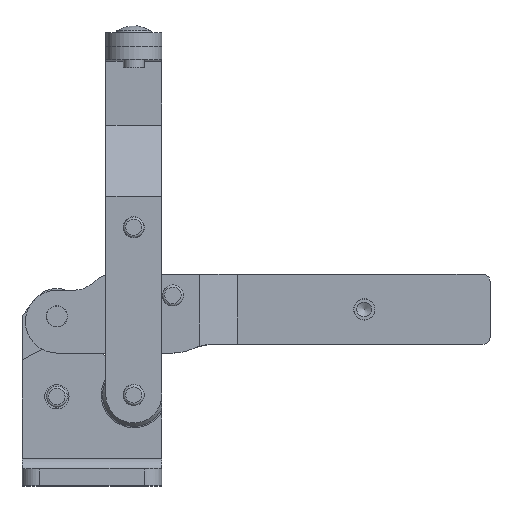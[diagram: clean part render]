
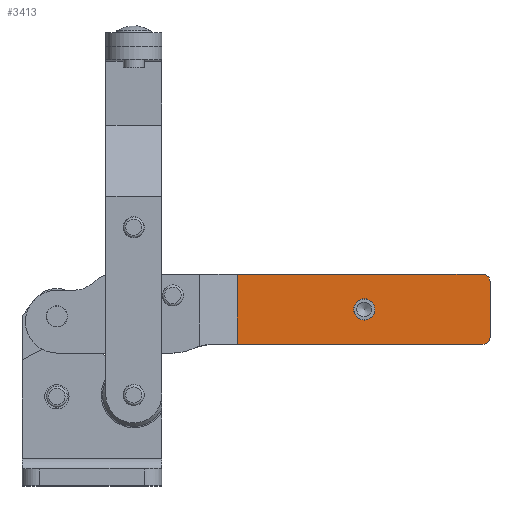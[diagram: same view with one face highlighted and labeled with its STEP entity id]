
A CAD part, top view. The second image highlights one B-rep face of the part: STEP entity #3413.
In plain terms, the highlighted planar face has unit normal (0, 0, 1) as drawn and (0, 0, -1) by its records, which use the part's own axes.
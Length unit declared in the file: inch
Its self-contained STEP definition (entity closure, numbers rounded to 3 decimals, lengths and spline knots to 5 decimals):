
#183=PLANE('',#3762);
#391=LINE('',#6078,#593);
#400=LINE('',#6096,#602);
#401=LINE('',#6101,#603);
#402=LINE('',#6102,#604);
#593=VECTOR('',#4534,0.50012);
#602=VECTOR('',#4549,2.19665);
#603=VECTOR('',#4556,2.19765);
#604=VECTOR('',#4557,0.62512);
#761=FACE_BOUND('',#1191,.T.);
#923=FACE_OUTER_BOUND('',#1190,.T.);
#1190=EDGE_LOOP('',(#2789,#2790,#2791,#2792,#2793,#2794));
#1191=EDGE_LOOP('',(#2795));
#1450=CIRCLE('',#3751,0.095);
#1453=CIRCLE('',#3755,0.062);
#1455=CIRCLE('',#3761,0.063);
#1714=VERTEX_POINT('',#6063);
#1718=VERTEX_POINT('',#6071);
#1719=VERTEX_POINT('',#6073);
#1720=VERTEX_POINT('',#6077);
#1725=VERTEX_POINT('',#6091);
#1726=VERTEX_POINT('',#6094);
#1727=VERTEX_POINT('',#6100);
#2097=EDGE_CURVE('',#1714,#1714,#1450,.T.);
#2101=EDGE_CURVE('',#1719,#1718,#1453,.T.);
#2103=EDGE_CURVE('',#1719,#1720,#391,.T.);
#2113=EDGE_CURVE('',#1726,#1725,#400,.T.);
#2114=EDGE_CURVE('',#1720,#1726,#1455,.T.);
#2115=EDGE_CURVE('',#1718,#1727,#401,.T.);
#2116=EDGE_CURVE('',#1727,#1725,#402,.T.);
#2789=ORIENTED_EDGE('',*,*,#2101,.T.);
#2790=ORIENTED_EDGE('',*,*,#2115,.T.);
#2791=ORIENTED_EDGE('',*,*,#2116,.T.);
#2792=ORIENTED_EDGE('',*,*,#2113,.F.);
#2793=ORIENTED_EDGE('',*,*,#2114,.F.);
#2794=ORIENTED_EDGE('',*,*,#2103,.F.);
#2795=ORIENTED_EDGE('',*,*,#2097,.F.);
#3413=ADVANCED_FACE('',(#923,#761),#183,.T.);
#3751=AXIS2_PLACEMENT_3D('',#6064,#4520,#4521);
#3755=AXIS2_PLACEMENT_3D('',#6074,#4529,#4530);
#3761=AXIS2_PLACEMENT_3D('',#6098,#4552,#4553);
#3762=AXIS2_PLACEMENT_3D('',#6099,#4554,#4555);
#4520=DIRECTION('center_axis',(0.,0.,-1.));
#4521=DIRECTION('ref_axis',(-1.,0.,0.));
#4529=DIRECTION('center_axis',(0.,0.,-1.));
#4530=DIRECTION('ref_axis',(-0.707,0.707,0.));
#4534=DIRECTION('',(0.,-1.,0.));
#4549=DIRECTION('',(1.,0.,0.));
#4552=DIRECTION('center_axis',(0.,0.,1.));
#4553=DIRECTION('ref_axis',(-1.,0.,0.));
#4554=DIRECTION('center_axis',(0.,0.,-1.));
#4555=DIRECTION('ref_axis',(-1.,0.,0.));
#4556=DIRECTION('',(1.,0.,0.));
#4557=DIRECTION('',(0.,-1.,0.));
#6063=CARTESIAN_POINT('',(1.22,0.24211,0.2776));
#6064=CARTESIAN_POINT('Origin',(1.125,0.24211,0.2776));
#6071=CARTESIAN_POINT('',(0.062,0.55511,0.2776));
#6073=CARTESIAN_POINT('',(0.,0.49311,0.2776));
#6074=CARTESIAN_POINT('Origin',(0.062,0.49311,0.2776));
#6077=CARTESIAN_POINT('',(0.,-0.00701,0.2776));
#6078=CARTESIAN_POINT('',(0.,0.49311,0.2776));
#6091=CARTESIAN_POINT('',(2.25965,-0.07001,0.2776));
#6094=CARTESIAN_POINT('',(0.063,-0.07001,0.2776));
#6096=CARTESIAN_POINT('',(0.063,-0.07001,0.2776));
#6098=CARTESIAN_POINT('Origin',(0.063,-0.00701,0.2776));
#6099=CARTESIAN_POINT('Origin',(1.12983,0.55511,0.2776));
#6100=CARTESIAN_POINT('',(2.25965,0.55511,0.2776));
#6101=CARTESIAN_POINT('',(0.062,0.55511,0.2776));
#6102=CARTESIAN_POINT('',(2.25965,0.55511,0.2776));
